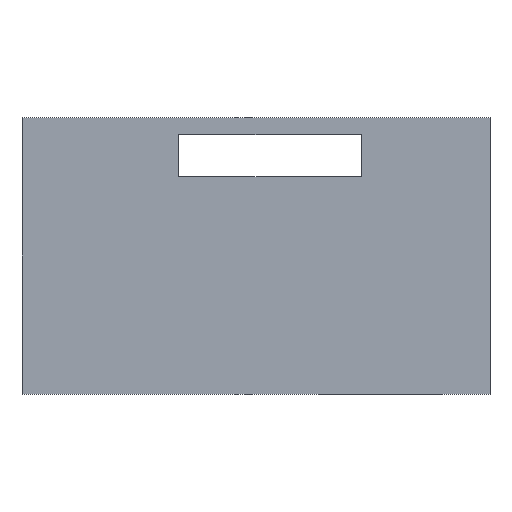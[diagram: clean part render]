
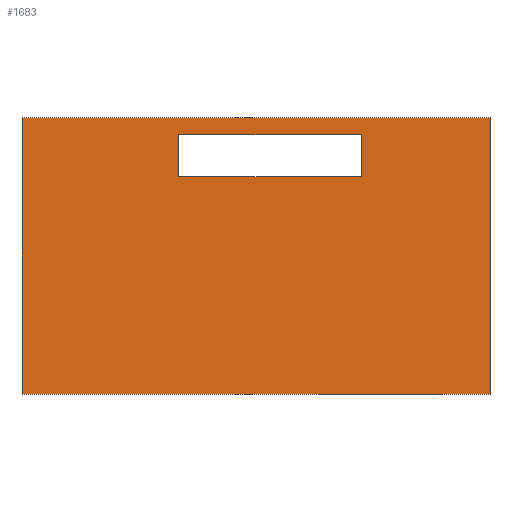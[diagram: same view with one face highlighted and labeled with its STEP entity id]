
A CAD part, front view. The second image highlights one B-rep face of the part: STEP entity #1683.
In plain terms, the highlighted planar face has unit normal (0, -1, 0).
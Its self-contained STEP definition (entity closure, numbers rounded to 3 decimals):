
#288 = PLANE('',#289);
#289 = AXIS2_PLACEMENT_3D('',#290,#291,#292);
#290 = CARTESIAN_POINT('',(161.,6.,-83.));
#291 = DIRECTION('',(-1.,0.,0.));
#292 = DIRECTION('',(0.,0.,-1.));
#316 = PLANE('',#317);
#317 = AXIS2_PLACEMENT_3D('',#318,#319,#320);
#318 = CARTESIAN_POINT('',(77.5,66.,-92.));
#319 = DIRECTION('',(0.,0.,1.));
#320 = DIRECTION('',(0.,1.,0.));
#344 = PLANE('',#345);
#345 = AXIS2_PLACEMENT_3D('',#346,#347,#348);
#346 = CARTESIAN_POINT('',(-6.,6.,-92.));
#347 = DIRECTION('',(-1.,0.,0.));
#348 = DIRECTION('',(0.,0.,-1.));
#920 = VERTEX_POINT('',#921);
#921 = CARTESIAN_POINT('',(161.,-3.,6.5));
#935 = PLANE('',#936);
#936 = AXIS2_PLACEMENT_3D('',#937,#938,#939);
#937 = CARTESIAN_POINT('',(-6.,-3.,6.5));
#938 = DIRECTION('',(0.,0.,1.));
#939 = DIRECTION('',(1.,0.,0.));
#947 = EDGE_CURVE('',#948,#920,#950,.T.);
#948 = VERTEX_POINT('',#949);
#949 = CARTESIAN_POINT('',(161.,-3.,-92.));
#950 = SURFACE_CURVE('',#951,(#955,#962),.PCURVE_S1.);
#951 = LINE('',#952,#953);
#952 = CARTESIAN_POINT('',(161.,-3.,-92.));
#953 = VECTOR('',#954,1.);
#954 = DIRECTION('',(0.,0.,1.));
#955 = PCURVE('',#288,#956);
#956 = DEFINITIONAL_REPRESENTATION('',(#957),#961);
#957 = LINE('',#958,#959);
#958 = CARTESIAN_POINT('',(9.,9.));
#959 = VECTOR('',#960,1.);
#960 = DIRECTION('',(-1.,-0.));
#961 = ( GEOMETRIC_REPRESENTATION_CONTEXT(2) 
PARAMETRIC_REPRESENTATION_CONTEXT() REPRESENTATION_CONTEXT('2D SPACE',''
  ) );
#962 = PCURVE('',#963,#968);
#963 = PLANE('',#964);
#964 = AXIS2_PLACEMENT_3D('',#965,#966,#967);
#965 = CARTESIAN_POINT('',(-6.,-3.,-92.));
#966 = DIRECTION('',(0.,1.,0.));
#967 = DIRECTION('',(0.,0.,1.));
#968 = DEFINITIONAL_REPRESENTATION('',(#969),#973);
#969 = LINE('',#970,#971);
#970 = CARTESIAN_POINT('',(0.,167.));
#971 = VECTOR('',#972,1.);
#972 = DIRECTION('',(1.,0.));
#973 = ( GEOMETRIC_REPRESENTATION_CONTEXT(2) 
PARAMETRIC_REPRESENTATION_CONTEXT() REPRESENTATION_CONTEXT('2D SPACE',''
  ) );
#1003 = VERTEX_POINT('',#1004);
#1004 = CARTESIAN_POINT('',(-6.,-3.,-92.));
#1025 = EDGE_CURVE('',#1003,#948,#1026,.T.);
#1026 = SURFACE_CURVE('',#1027,(#1031,#1038),.PCURVE_S1.);
#1027 = LINE('',#1028,#1029);
#1028 = CARTESIAN_POINT('',(-6.,-3.,-92.));
#1029 = VECTOR('',#1030,1.);
#1030 = DIRECTION('',(1.,0.,0.));
#1031 = PCURVE('',#316,#1032);
#1032 = DEFINITIONAL_REPRESENTATION('',(#1033),#1037);
#1033 = LINE('',#1034,#1035);
#1034 = CARTESIAN_POINT('',(-69.,83.5));
#1035 = VECTOR('',#1036,1.);
#1036 = DIRECTION('',(0.,-1.));
#1037 = ( GEOMETRIC_REPRESENTATION_CONTEXT(2) 
PARAMETRIC_REPRESENTATION_CONTEXT() REPRESENTATION_CONTEXT('2D SPACE',''
  ) );
#1038 = PCURVE('',#963,#1039);
#1039 = DEFINITIONAL_REPRESENTATION('',(#1040),#1044);
#1040 = LINE('',#1041,#1042);
#1041 = CARTESIAN_POINT('',(0.,0.));
#1042 = VECTOR('',#1043,1.);
#1043 = DIRECTION('',(0.,1.));
#1044 = ( GEOMETRIC_REPRESENTATION_CONTEXT(2) 
PARAMETRIC_REPRESENTATION_CONTEXT() REPRESENTATION_CONTEXT('2D SPACE',''
  ) );
#1144 = EDGE_CURVE('',#1003,#1145,#1147,.T.);
#1145 = VERTEX_POINT('',#1146);
#1146 = CARTESIAN_POINT('',(-6.,-3.,6.5));
#1147 = SURFACE_CURVE('',#1148,(#1152,#1159),.PCURVE_S1.);
#1148 = LINE('',#1149,#1150);
#1149 = CARTESIAN_POINT('',(-6.,-3.,-92.));
#1150 = VECTOR('',#1151,1.);
#1151 = DIRECTION('',(0.,0.,1.));
#1152 = PCURVE('',#344,#1153);
#1153 = DEFINITIONAL_REPRESENTATION('',(#1154),#1158);
#1154 = LINE('',#1155,#1156);
#1155 = CARTESIAN_POINT('',(0.,9.));
#1156 = VECTOR('',#1157,1.);
#1157 = DIRECTION('',(-1.,-0.));
#1158 = ( GEOMETRIC_REPRESENTATION_CONTEXT(2) 
PARAMETRIC_REPRESENTATION_CONTEXT() REPRESENTATION_CONTEXT('2D SPACE',''
  ) );
#1159 = PCURVE('',#963,#1160);
#1160 = DEFINITIONAL_REPRESENTATION('',(#1161),#1165);
#1161 = LINE('',#1162,#1163);
#1162 = CARTESIAN_POINT('',(0.,0.));
#1163 = VECTOR('',#1164,1.);
#1164 = DIRECTION('',(1.,0.));
#1165 = ( GEOMETRIC_REPRESENTATION_CONTEXT(2) 
PARAMETRIC_REPRESENTATION_CONTEXT() REPRESENTATION_CONTEXT('2D SPACE',''
  ) );
#1505 = PLANE('',#1506);
#1506 = AXIS2_PLACEMENT_3D('',#1507,#1508,#1509);
#1507 = CARTESIAN_POINT('',(115.,0.,-14.519));
#1508 = DIRECTION('',(-0.,0.,-1.));
#1509 = DIRECTION('',(-1.,0.,0.));
#1533 = PLANE('',#1534);
#1534 = AXIS2_PLACEMENT_3D('',#1535,#1536,#1537);
#1535 = CARTESIAN_POINT('',(115.,0.,0.481));
#1536 = DIRECTION('',(1.,0.,0.));
#1537 = DIRECTION('',(0.,0.,-1.));
#1561 = PLANE('',#1562);
#1562 = AXIS2_PLACEMENT_3D('',#1563,#1564,#1565);
#1563 = CARTESIAN_POINT('',(50.,0.,0.481));
#1564 = DIRECTION('',(0.,0.,1.));
#1565 = DIRECTION('',(1.,0.,0.));
#1587 = PLANE('',#1588);
#1588 = AXIS2_PLACEMENT_3D('',#1589,#1590,#1591);
#1589 = CARTESIAN_POINT('',(50.,0.,-14.519));
#1590 = DIRECTION('',(-1.,0.,0.));
#1591 = DIRECTION('',(0.,0.,1.));
#1661 = EDGE_CURVE('',#1145,#920,#1662,.T.);
#1662 = SURFACE_CURVE('',#1663,(#1667,#1674),.PCURVE_S1.);
#1663 = LINE('',#1664,#1665);
#1664 = CARTESIAN_POINT('',(-6.,-3.,6.5));
#1665 = VECTOR('',#1666,1.);
#1666 = DIRECTION('',(1.,0.,0.));
#1667 = PCURVE('',#935,#1668);
#1668 = DEFINITIONAL_REPRESENTATION('',(#1669),#1673);
#1669 = LINE('',#1670,#1671);
#1670 = CARTESIAN_POINT('',(0.,0.));
#1671 = VECTOR('',#1672,1.);
#1672 = DIRECTION('',(1.,0.));
#1673 = ( GEOMETRIC_REPRESENTATION_CONTEXT(2) 
PARAMETRIC_REPRESENTATION_CONTEXT() REPRESENTATION_CONTEXT('2D SPACE',''
  ) );
#1674 = PCURVE('',#963,#1675);
#1675 = DEFINITIONAL_REPRESENTATION('',(#1676),#1680);
#1676 = LINE('',#1677,#1678);
#1677 = CARTESIAN_POINT('',(98.5,0.));
#1678 = VECTOR('',#1679,1.);
#1679 = DIRECTION('',(0.,1.));
#1680 = ( GEOMETRIC_REPRESENTATION_CONTEXT(2) 
PARAMETRIC_REPRESENTATION_CONTEXT() REPRESENTATION_CONTEXT('2D SPACE',''
  ) );
#1683 = ADVANCED_FACE('',(#1684,#1690),#963,.F.);
#1684 = FACE_BOUND('',#1685,.F.);
#1685 = EDGE_LOOP('',(#1686,#1687,#1688,#1689));
#1686 = ORIENTED_EDGE('',*,*,#1025,.F.);
#1687 = ORIENTED_EDGE('',*,*,#1144,.T.);
#1688 = ORIENTED_EDGE('',*,*,#1661,.T.);
#1689 = ORIENTED_EDGE('',*,*,#947,.F.);
#1690 = FACE_BOUND('',#1691,.F.);
#1691 = EDGE_LOOP('',(#1692,#1717,#1740,#1763));
#1692 = ORIENTED_EDGE('',*,*,#1693,.F.);
#1693 = EDGE_CURVE('',#1694,#1696,#1698,.T.);
#1694 = VERTEX_POINT('',#1695);
#1695 = CARTESIAN_POINT('',(115.,-3.,-14.519));
#1696 = VERTEX_POINT('',#1697);
#1697 = CARTESIAN_POINT('',(50.,-3.,-14.519));
#1698 = SURFACE_CURVE('',#1699,(#1703,#1710),.PCURVE_S1.);
#1699 = LINE('',#1700,#1701);
#1700 = CARTESIAN_POINT('',(115.,-3.,-14.519));
#1701 = VECTOR('',#1702,1.);
#1702 = DIRECTION('',(-1.,0.,0.));
#1703 = PCURVE('',#963,#1704);
#1704 = DEFINITIONAL_REPRESENTATION('',(#1705),#1709);
#1705 = LINE('',#1706,#1707);
#1706 = CARTESIAN_POINT('',(77.481,121.));
#1707 = VECTOR('',#1708,1.);
#1708 = DIRECTION('',(0.,-1.));
#1709 = ( GEOMETRIC_REPRESENTATION_CONTEXT(2) 
PARAMETRIC_REPRESENTATION_CONTEXT() REPRESENTATION_CONTEXT('2D SPACE',''
  ) );
#1710 = PCURVE('',#1505,#1711);
#1711 = DEFINITIONAL_REPRESENTATION('',(#1712),#1716);
#1712 = LINE('',#1713,#1714);
#1713 = CARTESIAN_POINT('',(0.,-3.));
#1714 = VECTOR('',#1715,1.);
#1715 = DIRECTION('',(1.,0.));
#1716 = ( GEOMETRIC_REPRESENTATION_CONTEXT(2) 
PARAMETRIC_REPRESENTATION_CONTEXT() REPRESENTATION_CONTEXT('2D SPACE',''
  ) );
#1717 = ORIENTED_EDGE('',*,*,#1718,.F.);
#1718 = EDGE_CURVE('',#1719,#1694,#1721,.T.);
#1719 = VERTEX_POINT('',#1720);
#1720 = CARTESIAN_POINT('',(115.,-3.,0.481));
#1721 = SURFACE_CURVE('',#1722,(#1726,#1733),.PCURVE_S1.);
#1722 = LINE('',#1723,#1724);
#1723 = CARTESIAN_POINT('',(115.,-3.,0.481));
#1724 = VECTOR('',#1725,1.);
#1725 = DIRECTION('',(0.,0.,-1.));
#1726 = PCURVE('',#963,#1727);
#1727 = DEFINITIONAL_REPRESENTATION('',(#1728),#1732);
#1728 = LINE('',#1729,#1730);
#1729 = CARTESIAN_POINT('',(92.481,121.));
#1730 = VECTOR('',#1731,1.);
#1731 = DIRECTION('',(-1.,0.));
#1732 = ( GEOMETRIC_REPRESENTATION_CONTEXT(2) 
PARAMETRIC_REPRESENTATION_CONTEXT() REPRESENTATION_CONTEXT('2D SPACE',''
  ) );
#1733 = PCURVE('',#1533,#1734);
#1734 = DEFINITIONAL_REPRESENTATION('',(#1735),#1739);
#1735 = LINE('',#1736,#1737);
#1736 = CARTESIAN_POINT('',(0.,-3.));
#1737 = VECTOR('',#1738,1.);
#1738 = DIRECTION('',(1.,0.));
#1739 = ( GEOMETRIC_REPRESENTATION_CONTEXT(2) 
PARAMETRIC_REPRESENTATION_CONTEXT() REPRESENTATION_CONTEXT('2D SPACE',''
  ) );
#1740 = ORIENTED_EDGE('',*,*,#1741,.F.);
#1741 = EDGE_CURVE('',#1742,#1719,#1744,.T.);
#1742 = VERTEX_POINT('',#1743);
#1743 = CARTESIAN_POINT('',(50.,-3.,0.481));
#1744 = SURFACE_CURVE('',#1745,(#1749,#1756),.PCURVE_S1.);
#1745 = LINE('',#1746,#1747);
#1746 = CARTESIAN_POINT('',(50.,-3.,0.481));
#1747 = VECTOR('',#1748,1.);
#1748 = DIRECTION('',(1.,0.,0.));
#1749 = PCURVE('',#963,#1750);
#1750 = DEFINITIONAL_REPRESENTATION('',(#1751),#1755);
#1751 = LINE('',#1752,#1753);
#1752 = CARTESIAN_POINT('',(92.481,56.));
#1753 = VECTOR('',#1754,1.);
#1754 = DIRECTION('',(0.,1.));
#1755 = ( GEOMETRIC_REPRESENTATION_CONTEXT(2) 
PARAMETRIC_REPRESENTATION_CONTEXT() REPRESENTATION_CONTEXT('2D SPACE',''
  ) );
#1756 = PCURVE('',#1561,#1757);
#1757 = DEFINITIONAL_REPRESENTATION('',(#1758),#1762);
#1758 = LINE('',#1759,#1760);
#1759 = CARTESIAN_POINT('',(0.,-3.));
#1760 = VECTOR('',#1761,1.);
#1761 = DIRECTION('',(1.,0.));
#1762 = ( GEOMETRIC_REPRESENTATION_CONTEXT(2) 
PARAMETRIC_REPRESENTATION_CONTEXT() REPRESENTATION_CONTEXT('2D SPACE',''
  ) );
#1763 = ORIENTED_EDGE('',*,*,#1764,.F.);
#1764 = EDGE_CURVE('',#1696,#1742,#1765,.T.);
#1765 = SURFACE_CURVE('',#1766,(#1770,#1777),.PCURVE_S1.);
#1766 = LINE('',#1767,#1768);
#1767 = CARTESIAN_POINT('',(50.,-3.,-14.519));
#1768 = VECTOR('',#1769,1.);
#1769 = DIRECTION('',(0.,0.,1.));
#1770 = PCURVE('',#963,#1771);
#1771 = DEFINITIONAL_REPRESENTATION('',(#1772),#1776);
#1772 = LINE('',#1773,#1774);
#1773 = CARTESIAN_POINT('',(77.481,56.));
#1774 = VECTOR('',#1775,1.);
#1775 = DIRECTION('',(1.,0.));
#1776 = ( GEOMETRIC_REPRESENTATION_CONTEXT(2) 
PARAMETRIC_REPRESENTATION_CONTEXT() REPRESENTATION_CONTEXT('2D SPACE',''
  ) );
#1777 = PCURVE('',#1587,#1778);
#1778 = DEFINITIONAL_REPRESENTATION('',(#1779),#1783);
#1779 = LINE('',#1780,#1781);
#1780 = CARTESIAN_POINT('',(0.,-3.));
#1781 = VECTOR('',#1782,1.);
#1782 = DIRECTION('',(1.,0.));
#1783 = ( GEOMETRIC_REPRESENTATION_CONTEXT(2) 
PARAMETRIC_REPRESENTATION_CONTEXT() REPRESENTATION_CONTEXT('2D SPACE',''
  ) );
